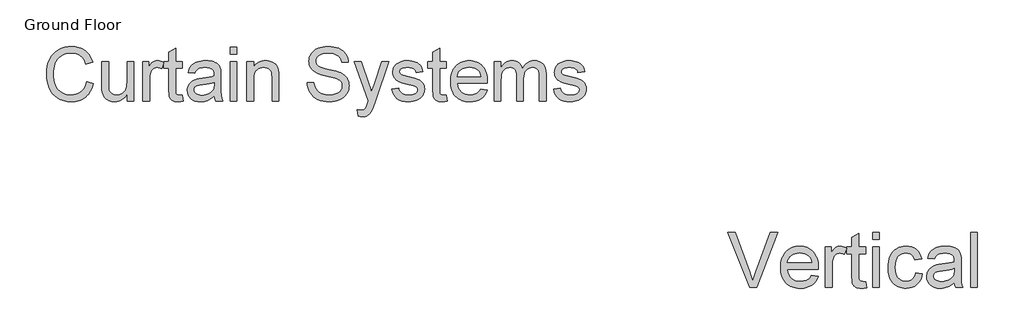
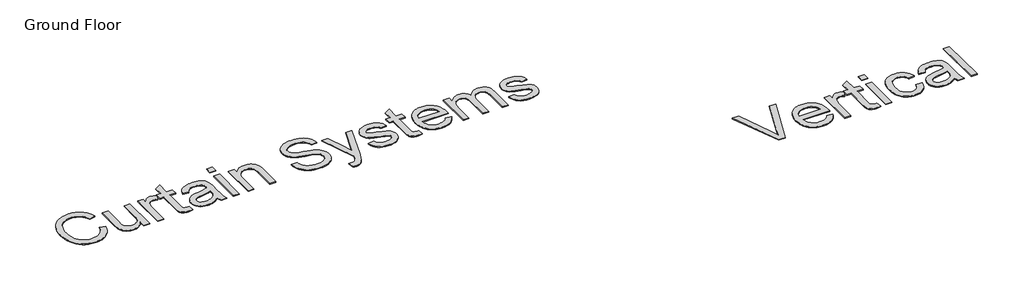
# One storey, part 2 of 6: 2 proxies.
"""IFC4 building model written with IfcOpenShell, lengths in millimetres."""

from ifc_helpers import new_model, si_unit, origin, origin_with_axes, place, context, project, spatial, polyline, outline, extrude, element, save

model = new_model("IFC4")

# Units and contexts
model_context = context("Model", 3, world=origin())
ifc_project = project(units=[si_unit("LENGTHUNIT", "METRE", prefix="MILLI")], contexts=[model_context])

# Site, building, storey
site = spatial("IfcSite", under=ifc_project)
building = spatial("IfcBuilding", under=site)
storey = spatial("IfcBuildingStorey", under=building, Name="Ground Floor", Elevation=0.0)

# Proxies
placement = place(None, origin())
element("IfcBuildingElementProxy", 1, Name="1200mm Arial", ObjectType="1200mm Arial", at=placement, inside=storey, context=model_context, shape_type="SweptSolid", body=[
    extrude(outline(polyline([(-31551.5643915, -3189.6186223), (-31404.6553006, -3227.4936223), (-31433.7250804, -3318.8545065), (-31451.8780012, -3360.2107965), (-31472.4429426, -3398.6843183), (-31495.4199046, -3434.275072), (-31520.8088872, -3466.9830577), (-31548.6098904, -3496.8082752), (-31578.8229142, -3523.7507246), (-31611.120677, -3547.6579733), (-31645.1758971, -3568.3775889), (-31680.9885747, -3585.9095713), (-31718.5587096, -3600.2539206), (-31757.886302, -3611.4106367), (-31798.9713517, -3619.3797196), (-31841.8138588, -3624.1611693), (-31886.4138233, -3625.7549859), (-31975.9993169, -3620.9309447), (-32056.8154568, -3606.4588212), (-32128.862243, -3582.3386152), (-32192.1396756, -3548.5703268), (-32247.5175165, -3505.6560868), (-32295.8655278, -3454.0980257), (-32337.1837096, -3393.8961436), (-32371.4720619, -3325.0504405), (-32398.3988197, -3250.5378339), (-32417.6322182, -3173.3352416), (-32429.1722572, -3093.4426635), (-32433.0189369, -3010.8600996), (-32428.6701265, -2922.2519675), (-32415.6236954, -2839.4900712), (-32393.8796436, -2762.5744106), (-32363.437971, -2691.5049859), (-32324.9801408, -2627.4564241), (-32279.1876159, -2571.6033524), (-32226.0603964, -2523.9457707), (-32165.5984824, -2484.4836791), (-32099.8552295, -2453.5398758), (-32030.8839937, -2431.4371592), (-31958.684775, -2418.1755293), (-31883.2575733, -2413.7549859), (-31799.2313837, -2419.4756891), (-31722.1812238, -2436.6377984), (-31686.2721551, -2449.5093805), (-31652.1070939, -2465.2413141), (-31619.6860401, -2483.8335992), (-31589.0089937, -2505.2862359), (-31560.3359868, -2529.3347089), (-31533.9270513, -2555.714503), (-31509.7821871, -2584.425618), (-31487.9013943, -2615.4680541), (-31450.9320229, -2684.5468893), (-31423.0189369, -2762.9510087), (-31569.9280278, -2797.9566905), (-31593.0619057, -2740.1847622), (-31620.8584256, -2690.8235229), (-31653.3175875, -2649.8729724), (-31690.4393915, -2617.3331109), (-31732.4390363, -2592.5404085), (-31779.531721, -2574.8313354), (-31831.7174454, -2564.2058915), (-31888.9962096, -2560.6640768), (-31954.9008616, -2564.5914561), (-32015.1744767, -2576.3735939), (-32069.8170548, -2596.0104902), (-32118.828596, -2623.502145), (-32161.5904035, -2657.6111649), (-32197.4837807, -2697.1001564), (-32226.5087274, -2741.9691194), (-32248.6652437, -2792.2180541), (-32265.0472572, -2845.5694391), (-32276.7486954, -2899.745753), (-32283.7695584, -2954.7469959), (-32286.109846, -3010.5731677), (-32283.3391606, -3080.7279973), (-32275.0271045, -3146.2919177), (-32261.1736777, -3207.2649291), (-32241.7788801, -3263.6470314), (-32216.5288801, -3314.3173971), (-32185.109846, -3358.155199), (-32147.5217778, -3395.1604369), (-32103.7646756, -3425.3331109), (-32055.963628, -3448.744954), (-32006.2437238, -3465.467699), (-31954.6049632, -3475.501346), (-31901.047346, -3478.845895), (-31837.1781166, -3474.2908524), (-31778.4198602, -3460.6257246), (-31724.7725768, -3437.8505115), (-31676.2362665, -3405.9652132), (-31633.9586564, -3365.1132956), (-31599.0874738, -3315.4382246), (-31571.6227189, -3256.9400001), (-31551.5643915, -3189.6186223)])), origin_with_axes(), (0.0, 0.0, 1.0), 20.0),
    extrude(outline(polyline([(-30670.109846, -3607.3913496), (-30670.109846, -3459.0475996), (-30695.5929781, -3498.1196432), (-30723.2639653, -3531.9820811), (-30753.1228077, -3560.6349131), (-30785.1695051, -3584.0781393), (-30819.4040577, -3602.3117597), (-30855.8264653, -3615.3357743), (-30894.4367281, -3623.150183), (-30935.234846, -3625.7549859), (-30971.6303538, -3623.9257956), (-31006.7884682, -3618.4382246), (-31040.709189, -3609.2922729), (-31073.3925165, -3596.4879405), (-31103.3948247, -3580.9218893), (-31129.2724881, -3563.4907814), (-31151.0255065, -3544.1946166), (-31168.6538801, -3523.033395), (-31183.0632373, -3499.7022516), (-31195.1592068, -3473.8963212), (-31212.4109824, -3414.8600996), (-31218.8669483, -3359.1953268), (-31221.0189369, -3278.2805541), (-31221.0189369, -2744.3004405), (-31074.109846, -2744.3004405), (-31074.109846, -3209.1299859), (-31071.8861244, -3302.095895), (-31065.2149596, -3358.908395), (-31056.4187061, -3385.3868219), (-31043.8026727, -3408.8703979), (-31027.3668595, -3429.359123), (-31007.1112665, -3446.8529973), (-30983.6456237, -3460.84989), (-30957.5796613, -3470.8476706), (-30928.9133794, -3476.8463389), (-30897.6467778, -3478.845895), (-30865.4476479, -3476.8015058), (-30834.2707125, -3470.6683382), (-30804.1159717, -3460.4463922), (-30774.9834256, -3446.1356677), (-30748.451199, -3428.3010619), (-30726.097417, -3407.5074717), (-30707.9220797, -3383.7548971), (-30693.9251869, -3357.0433382), (-30683.5059753, -3325.6691372), (-30676.0636812, -3287.9286365), (-30671.5983048, -3243.8218361), (-30670.109846, -3193.3487359), (-30670.109846, -2744.3004405), (-30523.2007551, -2744.3004405), (-30523.2007551, -3607.3913496), (-30670.109846, -3607.3913496)])), origin_with_axes(), (0.0, 0.0, 1.0), 20.0),
    extrude(outline(polyline([(-30321.2007551, -3607.3913496), (-30321.2007551, -2744.3004405), (-30192.6553006, -2744.3004405), (-30192.6553006, -2871.9850996), (-30168.4454284, -2831.1690484), (-30145.1680846, -2797.9566905), (-30122.8232693, -2772.3480257), (-30101.4109824, -2754.3430541), (-30079.962829, -2741.9153197), (-30057.5104142, -2733.0383666), (-30034.0537381, -2727.7121947), (-30009.5928006, -2725.9368041), (-29973.1524596, -2728.7702558), (-29936.4251869, -2737.2706109), (-29899.4109824, -2751.4378694), (-29862.109846, -2771.2720314), (-29911.1751869, -2902.9737359), (-29936.9990506, -2889.7928055), (-29962.8229142, -2880.3778552), (-29988.6467778, -2874.7288851), (-30014.4706415, -2872.845895), (-30036.9858226, -2874.6571521), (-30058.3353432, -2880.0909234), (-30078.5192033, -2889.1472089), (-30097.5374028, -2901.8260087), (-30114.6726123, -2917.7148581), (-30129.2075023, -2936.4012927), (-30141.1420726, -2957.8853126), (-30150.4763233, -2982.1669177), (-30160.8955349, -3022.2656393), (-30168.337829, -3064.2294177), (-30174.2916642, -3153.752145), (-30174.2916642, -3607.3913496), (-30321.2007551, -3607.3913496)])), origin_with_axes(), (0.0, 0.0, 1.0), 20.0),
    extrude(outline(polyline([(-29458.109846, -3484.8714632), (-29439.7462096, -3611.6953268), (-29497.9216358, -3622.2400712), (-29549.641096, -3625.7549859), (-29587.139498, -3624.2306606), (-29620.1545903, -3619.6576848), (-29648.686373, -3612.0360584), (-29672.734846, -3601.3657814), (-29692.9276727, -3588.2207175), (-29709.8925165, -3573.1747302), (-29723.6293773, -3556.2278197), (-29734.1382551, -3537.3799859), (-29741.9212807, -3512.1120527), (-29747.4805846, -3475.9048439), (-29751.9280278, -3370.6725996), (-29751.9280278, -2891.2095314), (-29862.109846, -2891.2095314), (-29862.109846, -2744.3004405), (-29751.9280278, -2744.3004405), (-29751.9280278, -2534.5532814), (-29605.0189369, -2448.1868041), (-29605.0189369, -2744.3004405), (-29458.109846, -2744.3004405), (-29458.109846, -2891.2095314), (-29605.0189369, -2891.2095314), (-29605.0189369, -3366.3686223), (-29603.0821471, -3414.7166337), (-29597.2717778, -3442.1186223), (-29587.1215648, -3457.2901422), (-29572.1652437, -3468.9467473), (-29550.9681557, -3476.3711081), (-29522.0956415, -3478.845895), (-29458.109846, -3484.8714632)])), origin_with_axes(), (0.0, 0.0, 1.0), 20.0),
    extrude(outline(polyline([(-28760.2916642, -3497.2095314), (-28795.1269802, -3529.9018254), (-28830.4823602, -3557.3934802), (-28866.3578041, -3579.6844959), (-28902.7533119, -3596.7748723), (-28940.0813481, -3609.453672), (-28978.7543773, -3618.5099575), (-29018.7723993, -3623.9437288), (-29060.1354142, -3625.7549859), (-29125.5469021, -3621.3972089), (-29182.9063659, -3608.323878), (-29232.2138055, -3586.534993), (-29273.469221, -3556.0305541), (-29306.044949, -3518.747351), (-29329.3133261, -3476.6221734), (-29343.2743524, -3429.6550214), (-29347.9280278, -3377.845895), (-29346.1705704, -3346.6958595), (-29340.8981983, -3316.9446166), (-29332.1109113, -3288.5921663), (-29319.8087096, -3261.6385087), (-29304.6461564, -3236.6754405), (-29287.2778148, -3214.2947587), (-29267.7036848, -3194.4964632), (-29245.9237665, -3177.2805541), (-29197.3246898, -3149.3047018), (-29143.0587096, -3129.0760087), (-29090.1915221, -3117.8139348), (-29015.9479142, -3106.9822587), (-28865.7391074, -3083.7407814), (-28807.7430136, -3070.6136507), (-28761.1524596, -3056.4822587), (-28760.2916642, -3023.7720314), (-28762.8202508, -2988.1566194), (-28770.4060108, -2958.2081109), (-28783.048944, -2933.9265058), (-28800.7490506, -2915.3118041), (-28831.3431557, -2896.7329689), (-28868.6084256, -2883.4623723), (-28912.5448602, -2875.5000143), (-28963.1524596, -2872.845895), (-29010.2092778, -2874.612319), (-29050.6666642, -2879.911591), (-29084.5246187, -2888.7437111), (-29111.7831415, -2901.1086791), (-29134.1817565, -2917.97489), (-29153.4599881, -2940.3107388), (-29169.6178361, -2968.1162253), (-29182.6553006, -3001.3913496), (-29329.5643915, -2983.0277132), (-29318.3830172, -2940.70527), (-29304.0633261, -2902.6868041), (-29286.6053183, -2868.9723155), (-29266.0089937, -2839.5618041), (-29241.3866571, -2813.8634731), (-29211.8506131, -2791.2855257), (-29177.4008616, -2771.8279618), (-29138.0374028, -2755.4907814), (-29094.5582658, -2742.5609163), (-29047.7614795, -2733.3252984), (-28997.6470442, -2727.7839277), (-28944.2149596, -2725.9368041), (-28891.9844021, -2727.5687288), (-28844.9006841, -2732.464503), (-28802.9638055, -2740.6241266), (-28766.1737665, -2752.0475996), (-28734.2257018, -2765.9368929), (-28706.8147466, -2781.4939774), (-28683.9409007, -2798.7188531), (-28665.6041642, -2817.61152), (-28650.7375094, -2838.6382423), (-28638.2739085, -2862.2652842), (-28620.5558687, -2917.3203268), (-28615.1758971, -2968.1072587), (-28613.3825733, -3045.8657814), (-28613.3825733, -3228.6413496), (-28611.5175165, -3387.8526422), (-28605.922346, -3483.8672018), (-28594.875471, -3546.9563354), (-28576.6553006, -3607.3913496), (-28723.5643915, -3607.3913496), (-28736.6197892, -3582.8586791), (-28747.0928006, -3556.3174859), (-28760.2916642, -3497.2095314)]), holes=[polyline([(-28760.2916642, -3203.3913496), (-28804.6943631, -3216.1060158), (-28858.9962096, -3227.8522871), (-28997.297346, -3248.439645), (-29073.5136102, -3259.7017189), (-29123.6908119, -3272.2549859), (-29156.5803716, -3288.5383666), (-29180.9337096, -3310.9907814), (-29195.9976301, -3337.8906393), (-29201.0189369, -3367.5163496), (-29198.284118, -3390.3453623), (-29190.0796613, -3411.2017189), (-29176.4055669, -3430.0854192), (-29157.2618346, -3446.9964632), (-29132.827797, -3460.9305896), (-29103.2827863, -3470.8835371), (-29068.6268027, -3476.8553055), (-29028.859846, -3478.845895), (-28988.2589937, -3476.6490733), (-28949.953596, -3470.0586081), (-28913.9436528, -3459.0744994), (-28880.2291642, -3443.6967473), (-28849.8143915, -3425.1986116), (-28823.703596, -3404.8533524), (-28801.8967778, -3382.6609696), (-28784.3939369, -3358.6214632), (-28774.2257906, -3337.1015768), (-28766.962829, -3310.9907814), (-28762.605052, -3280.2890768), (-28761.1524596, -3244.9964632), (-28760.2916642, -3203.3913496)])]), origin_with_axes(), (0.0, 0.0, 1.0), 20.0),
    extrude(outline(polyline([(-28411.3825733, -2579.0277132), (-28411.3825733, -2432.1186223), (-28264.4734824, -2432.1186223), (-28264.4734824, -2579.0277132), (-28411.3825733, -2579.0277132)])), origin_with_axes(), (0.0, 0.0, 1.0), 20.0),
    extrude(outline(polyline([(-28411.3825733, -3607.3913496), (-28411.3825733, -2744.3004405), (-28264.4734824, -2744.3004405), (-28264.4734824, -3607.3913496), (-28411.3825733, -3607.3913496)])), origin_with_axes(), (0.0, 0.0, 1.0), 20.0),
    extrude(outline(polyline([(-28044.109846, -3607.3913496), (-28044.109846, -2744.3004405), (-27897.2007551, -2744.3004405), (-27897.2007551, -2864.8118041), (-27872.9639831, -2832.262976), (-27846.1627579, -2804.0539916), (-27816.7970797, -2780.184851), (-27784.8669483, -2760.6555541), (-27750.3723638, -2745.466101), (-27713.3133261, -2734.6164916), (-27673.6898354, -2728.106726), (-27631.5018915, -2725.9368041), (-27594.53252, -2727.6852949), (-27559.0874738, -2732.9307672), (-27525.166753, -2741.673221), (-27492.7703574, -2753.9126564), (-27463.1267139, -2768.9945101), (-27437.4642494, -2786.2642189), (-27415.7829639, -2805.7217828), (-27398.0828574, -2827.3672018), (-27371.3623318, -2877.1140058), (-27354.0388233, -2935.3970314), (-27348.228454, -2991.1335371), (-27346.2916642, -3077.4282814), (-27346.2916642, -3607.3913496), (-27493.2007551, -3607.3913496), (-27493.2007551, -3097.2265768), (-27497.4329994, -3021.261378), (-27502.7233048, -2991.5101351), (-27510.1297324, -2967.2464632), (-27520.2171791, -2946.8115378), (-27533.550542, -2928.5465342), (-27550.1298212, -2912.4514525), (-27569.9550165, -2898.5262927), (-27592.3446649, -2887.2911187), (-27616.6173034, -2879.2659944), (-27642.7729319, -2874.4509199), (-27670.8115506, -2872.845895), (-27715.4204817, -2876.450476), (-27756.8552295, -2887.2642189), (-27795.1157942, -2905.2871237), (-27830.2021756, -2930.5191905), (-27845.9049676, -2946.5559891), (-27859.5140541, -2965.8297373), (-27871.029435, -2988.3404351), (-27880.4511102, -3014.0880825), (-27893.0133439, -3075.294226), (-27897.2007551, -3149.4481677), (-27897.2007551, -3607.3913496), (-28044.109846, -3607.3913496)])), origin_with_axes(), (0.0, 0.0, 1.0), 20.0),
    extrude(outline(polyline([(-26721.9280278, -3203.3913496), (-26575.0189369, -3203.3913496), (-26568.2939724, -3246.1531571), (-26558.1616926, -3284.9158524), (-26544.6220974, -3319.6794355), (-26527.6751869, -3350.4439064), (-26506.4601656, -3377.8279618), (-26480.1162381, -3402.4502984), (-26448.6434042, -3424.3109163), (-26412.0416642, -3443.4098155), (-26371.6560108, -3458.9131003), (-26328.8314369, -3469.9868751), (-26283.5679426, -3476.63114), (-26235.8655278, -3478.845895), (-26193.6686173, -3477.1691372), (-26154.0182267, -3472.1388638), (-26116.914356, -3463.7550747), (-26082.3570051, -3452.01777), (-26051.198003, -3437.3483808), (-26024.2891784, -3420.1683382), (-26001.6305314, -3400.4776422), (-25983.2220619, -3378.2762927), (-25968.9741038, -3354.5237182), (-25958.7969909, -3330.1793467), (-25952.6907231, -3305.2431784), (-25950.6553006, -3279.7152132), (-25952.1796258, -3254.2948474), (-25956.7526017, -3230.5422729), (-25964.3742281, -3208.4574895), (-25975.0445051, -3188.0404973), (-25990.4312238, -3169.1836969), (-26012.2021756, -3151.7794888), (-26040.3573602, -3135.827873), (-26074.8967778, -3121.3288496), (-26152.4759682, -3098.2667047), (-26288.8044483, -3065.2336791), (-26429.2217068, -3028.1118751), (-26480.4659362, -3010.2234696), (-26519.0672324, -2992.783395), (-26558.2961919, -2969.3805186), (-26592.1989795, -2943.3593893), (-26620.7755953, -2914.7200072), (-26644.0260392, -2883.4623723), (-26662.0399774, -2849.9092828), (-26674.9070761, -2814.3835371), (-26682.6273354, -2776.8851351), (-26685.2007551, -2737.4140768), (-26682.0176052, -2693.6659412), (-26672.4681557, -2651.3703979), (-26656.5524064, -2610.5274469), (-26634.2703574, -2571.1370882), (-26605.873074, -2534.8043467), (-26571.6116216, -2503.1342473), (-26531.4860001, -2476.1267899), (-26485.4962096, -2453.7819746), (-26435.1934753, -2436.270167), (-26382.1290221, -2423.7617331), (-26326.3028503, -2416.2566727), (-26267.7149596, -2413.7549859), (-26203.8008971, -2416.3732388), (-26143.7604142, -2424.2279973), (-26087.5935108, -2437.3192615), (-26035.3001869, -2455.6470314), (-25987.8488375, -2479.0499078), (-25946.2078574, -2507.3664916), (-25910.3772466, -2540.5967828), (-25880.3570051, -2578.7407814), (-25856.380265, -2620.6866266), (-25838.6801585, -2665.3224575), (-25827.2566855, -2712.6482743), (-25822.109846, -2762.6640768), (-25969.0189369, -2762.6640768), (-25978.8463517, -2715.786591), (-25995.9905278, -2675.0064064), (-26020.4514653, -2640.3235229), (-26052.2291642, -2611.7379405), (-26091.9154213, -2589.3931251), (-26140.1020335, -2573.4325427), (-26196.7890008, -2563.8561933), (-26261.9763233, -2560.6640768), (-26329.2439014, -2563.8203268), (-26386.7199312, -2573.2890768), (-26434.4044128, -2589.0703268), (-26472.297346, -2611.1640768), (-26501.1698602, -2637.7232033), (-26521.7930846, -2666.9005825), (-26534.1670193, -2698.6962146), (-26538.2916642, -2733.1100996), (-26535.3685463, -2762.7178766), (-26526.5991926, -2789.5639348), (-26511.9836031, -2813.6482743), (-26491.5217778, -2834.970895), (-26459.3136812, -2855.1637217), (-26408.5984824, -2875.5717473), (-26339.3761812, -2896.1949717), (-26251.6467778, -2917.033395), (-26089.6737665, -2956.4147871), (-26032.6819341, -2974.222493), (-25991.6865506, -2990.7748723), (-25946.6472217, -3015.8634731), (-25907.9383261, -3044.0724575), (-25875.5598638, -3075.4018254), (-25849.5118346, -3109.8515768), (-25829.4893737, -3147.2423794), (-25815.1876159, -3187.3949007), (-25806.6065612, -3230.3091408), (-25803.7462096, -3275.9850996), (-25807.0369589, -3321.9390236), (-25816.9092068, -3366.5479547), (-25833.3629533, -3409.8118929), (-25856.3981983, -3451.7308382), (-25885.611444, -3490.6818325), (-25920.5991926, -3525.0419177), (-25961.361444, -3554.8110939), (-26007.8981983, -3579.9893609), (-26058.8554959, -3600.0118219), (-26112.8793773, -3614.3135797), (-26169.9698425, -3622.8946344), (-26230.1268915, -3625.7549859), (-26305.276128, -3622.6704689), (-26374.0590648, -3613.4169177), (-26436.4757018, -3597.9943325), (-26492.5260392, -3576.4027132), (-26542.5508084, -3548.6061933), (-26586.8907409, -3514.5689064), (-26625.5458368, -3474.2908524), (-26658.516096, -3427.7720314), (-26685.0752224, -3376.5188354), (-26704.4969199, -3322.0376564), (-26716.7811883, -3264.3284944), (-26721.9280278, -3203.3913496)])), origin_with_axes(), (0.0, 0.0, 1.0), 20.0),
    extrude(outline(polyline([(-25601.7462096, -3937.9368041), (-25620.109846, -3796.4794177), (-25580.0828574, -3806.1633666), (-25545.5075733, -3809.3913496), (-25506.2696471, -3805.3384376), (-25475.7831415, -3793.1797018), (-25452.0395335, -3773.7759376), (-25433.0303006, -3747.9879405), (-25416.8186528, -3710.0412075), (-25392.859846, -3639.814645), (-25381.3825733, -3604.2350996), (-25693.5643915, -2744.3004405), (-25538.6212096, -2744.3004405), (-25373.0615506, -3223.4765768), (-25342.5750449, -3317.0163496), (-25315.3882551, -3415.1470314), (-25257.7149596, -3245.8572587), (-25087.5643915, -2744.3004405), (-24933.7689369, -2744.3004405), (-25234.1865506, -3628.0504405), (-25278.8044483, -3745.54902), (-25312.2320051, -3819.720895), (-25331.5461031, -3852.6642544), (-25352.1872608, -3880.9091052), (-25374.1554781, -3904.4554476), (-25397.4507551, -3923.3032814), (-25422.5752224, -3937.7395385), (-25450.0310108, -3948.0511507), (-25479.8181202, -3954.238118), (-25511.9365506, -3956.3004405), (-25554.4741926, -3951.7095314), (-25601.7462096, -3937.9368041)])), origin_with_axes(), (0.0, 0.0, 1.0), 20.0),
    extrude(outline(polyline([(-24867.2007551, -3350.3004405), (-24720.2916642, -3331.9368041), (-24711.4147111, -3365.4360939), (-24697.1219199, -3394.7748723), (-24677.4132906, -3419.9531393), (-24652.2888233, -3440.970895), (-24621.6767849, -3457.5412075), (-24585.5054426, -3469.377145), (-24543.7747963, -3476.4787075), (-24496.484846, -3478.845895), (-24449.2486954, -3476.6759731), (-24408.5402437, -3470.1662075), (-24374.3594909, -3459.3165981), (-24346.7064369, -3444.127145), (-24325.3658829, -3426.014574), (-24310.1226301, -3406.3956109), (-24300.9766784, -3385.2702558), (-24297.9280278, -3362.6385087), (-24300.9946116, -3342.8043467), (-24310.1943631, -3325.1939064), (-24325.5272821, -3309.8071876), (-24346.9933687, -3296.6441905), (-24402.0125449, -3277.9936223), (-24498.2064369, -3254.752145), (-24632.275329, -3215.9804831), (-24719.4308687, -3182.8757246), (-24749.3524774, -3166.2785122), (-24775.4184398, -3146.7581819), (-24797.6287558, -3124.3147338), (-24815.9834256, -3098.9481677), (-24830.3569163, -3071.4206464), (-24840.6236954, -3042.4943325), (-24846.7837629, -3012.169226), (-24848.8371187, -2980.4453268), (-24847.1872608, -2951.4383133), (-24842.2376869, -2923.5252274), (-24833.9883971, -2896.706069), (-24822.4393915, -2870.9808382), (-24808.0390008, -2846.8695989), (-24791.2355562, -2824.8924149), (-24772.0290577, -2805.0492864), (-24750.4195051, -2787.3402132), (-24709.8545193, -2763.7042047), (-24657.0231983, -2743.8700427), (-24595.9425875, -2730.4201138), (-24530.6297324, -2725.9368041), (-24481.2595264, -2727.7390946), (-24435.009704, -2733.145966), (-24391.880265, -2742.1574185), (-24351.8712096, -2754.7734518), (-24315.9329994, -2770.4650356), (-24285.016096, -2788.7031393), (-24259.1204994, -2809.4877629), (-24238.2462096, -2832.8189064), (-24221.3172324, -2859.5125321), (-24207.2575733, -2890.3846024), (-24196.0672324, -2925.4351173), (-24187.7462096, -2964.6640768), (-24334.6553006, -2983.0277132), (-24341.6582302, -2958.4860761), (-24353.1982693, -2936.795824), (-24369.2754177, -2917.9569568), (-24389.8896756, -2901.9694746), (-24415.1307089, -2889.2279085), (-24445.0881841, -2880.1267899), (-24479.762101, -2874.6661187), (-24519.1524596, -2872.845895), (-24564.8463517, -2874.5854192), (-24603.5104142, -2879.8039916), (-24635.1446471, -2888.5016123), (-24659.7490506, -2900.6782814), (-24678.2023531, -2915.1683382), (-24691.3832835, -2930.8061223), (-24699.2918417, -2947.5916337), (-24701.9280278, -2965.5248723), (-24697.5523176, -2988.120753), (-24684.4251869, -3008.2777132), (-24661.9727721, -3026.2826848), (-24629.6212096, -3040.7010087), (-24503.0842778, -3071.9765768), (-24373.2834966, -3110.3537075), (-24287.4550165, -3141.127145), (-24257.2554426, -3156.1372658), (-24230.4990506, -3174.1960371), (-24207.1858403, -3195.3034589), (-24187.3158119, -3219.4595314), (-24171.4359291, -3246.7001209), (-24160.0931557, -3277.0610939), (-24153.2874916, -3310.5424504), (-24151.0189369, -3347.1441905), (-24153.6820229, -3383.9073297), (-24161.6712807, -3419.5944746), (-24174.9867104, -3454.2056251), (-24193.6283119, -3487.7407814), (-24217.2912203, -3518.863917), (-24245.6705704, -3546.2390058), (-24278.7663623, -3569.8660477), (-24316.578596, -3589.7450427), (-24358.0761102, -3605.4993929), (-24402.2277437, -3616.7525001), (-24449.0334966, -3623.5043645), (-24498.4933687, -3625.7549859), (-24577.5610179, -3621.4151422), (-24646.6219199, -3608.3956109), (-24705.6760747, -3586.6963922), (-24754.7234824, -3556.3174859), (-24794.7863375, -3517.4023581), (-24826.8868346, -3470.0944746), (-24851.0249738, -3414.3938354), (-24867.2007551, -3350.3004405)])), origin_with_axes(), (0.0, 0.0, 1.0), 20.0),
    extrude(outline(polyline([(-23673.5643915, -3484.8714632), (-23655.2007551, -3611.6953268), (-23713.3761812, -3622.2400712), (-23765.0956415, -3625.7549859), (-23802.5940435, -3624.2306606), (-23835.6091358, -3619.6576848), (-23864.1409185, -3612.0360584), (-23888.1893915, -3601.3657814), (-23908.3822182, -3588.2207175), (-23925.3470619, -3573.1747302), (-23939.0839227, -3556.2278197), (-23949.5928006, -3537.3799859), (-23957.3758261, -3512.1120527), (-23962.9351301, -3475.9048439), (-23967.3825733, -3370.6725996), (-23967.3825733, -2891.2095314), (-24077.5643915, -2891.2095314), (-24077.5643915, -2744.3004405), (-23967.3825733, -2744.3004405), (-23967.3825733, -2534.5532814), (-23820.4734824, -2448.1868041), (-23820.4734824, -2744.3004405), (-23673.5643915, -2744.3004405), (-23673.5643915, -2891.2095314), (-23820.4734824, -2891.2095314), (-23820.4734824, -3366.3686223), (-23818.5366926, -3414.7166337), (-23812.7263233, -3442.1186223), (-23802.5761102, -3457.2901422), (-23787.6197892, -3468.9467473), (-23766.4227011, -3476.3711081), (-23737.5501869, -3478.845895), (-23673.5643915, -3484.8714632)])), origin_with_axes(), (0.0, 0.0, 1.0), 20.0),
    extrude(outline(polyline([(-22922.3768915, -3350.3004405), (-22778.3371187, -3368.6640768), (-22800.4219021, -3426.3553055), (-22830.2359113, -3477.1960371), (-22867.7791464, -3521.1862714), (-22913.0516074, -3558.3260087), (-22965.58703, -3587.8261862), (-23024.91915, -3608.8977416), (-23091.0479675, -3621.5406748), (-23163.9734824, -3625.7549859), (-23210.7926851, -3623.9370039), (-23255.1281344, -3618.4830577), (-23296.97983, -3609.3931473), (-23336.3477721, -3596.6672729), (-23373.2319607, -3580.3054343), (-23407.6323957, -3560.3076315), (-23439.5490772, -3536.6738647), (-23468.9820051, -3509.4041337), (-23495.4111155, -3478.85262), (-23518.3163446, -3445.3735051), (-23537.6976922, -3408.966789), (-23553.5551585, -3369.6324717), (-23565.8887434, -3327.3705532), (-23574.6984469, -3282.1810335), (-23579.9842689, -3234.0639126), (-23581.7462096, -3183.0191905), (-23579.9663357, -3130.2371859), (-23574.6267139, -3080.4948652), (-23565.7273442, -3033.7922285), (-23553.2682267, -2990.1292757), (-23537.2493613, -2949.5060069), (-23517.670748, -2911.922422), (-23494.5323868, -2877.3785211), (-23467.8342778, -2845.8743041), (-23438.2982338, -2817.7639525), (-23406.6460676, -2793.4016479), (-23372.8777792, -2772.78739), (-23336.9933687, -2755.9211791), (-23298.9928361, -2742.803015), (-23258.8761812, -2733.4328979), (-23216.6434042, -2727.8108275), (-23172.2945051, -2725.9368041), (-23129.3959566, -2727.8063442), (-23088.5014476, -2733.4149646), (-23049.6109779, -2742.7626653), (-23012.7245477, -2755.8494462), (-22977.8421569, -2772.6753073), (-22944.9638055, -2793.2402487), (-22914.0894936, -2817.5442704), (-22885.219221, -2845.5873723), (-22859.092734, -2877.0198563), (-22836.4497785, -2911.4920243), (-22817.2903547, -2949.0038762), (-22801.6144625, -2989.5554121), (-22789.4221019, -3033.1466319), (-22780.7132729, -3079.7775356), (-22775.4879754, -3129.4481234), (-22773.7462096, -3182.158395), (-22774.6070051, -3221.7549859), (-23434.8371187, -3221.7549859), (-23426.327797, -3280.378743), (-23409.4077863, -3331.7216052), (-23384.0770868, -3375.7835726), (-23350.3356983, -3412.564645), (-23310.0486777, -3441.5626919), (-23265.0810818, -3462.2755825), (-23215.4329106, -3474.7033169), (-23161.1041642, -3478.845895), (-23120.4674454, -3476.9270385), (-23082.9152437, -3471.1704689), (-23048.4475591, -3461.5761862), (-23017.0643915, -3448.1441905), (-22988.7657409, -3430.5158169), (-22963.5516074, -3408.3324007), (-22941.4219909, -3381.5939419), (-22922.3768915, -3350.3004405)]), holes=[polyline([(-23434.8371187, -3074.845895), (-22920.6553006, -3074.845895), (-22928.205194, -3033.2766479), (-22940.525329, -2997.2308382), (-22957.6157054, -2966.708466), (-22979.4763233, -2941.7095314), (-23019.5391784, -2911.5816905), (-23065.125471, -2890.0618041), (-23116.2352011, -2877.1498723), (-23172.8683687, -2872.845895), (-23224.5250626, -2876.2801102), (-23271.8957125, -2886.5827558), (-23314.9803183, -2903.7538318), (-23353.7788801, -2927.7933382), (-23386.3366748, -2957.5894142), (-23410.6989795, -2992.030199), (-23426.8657942, -3031.1156926), (-23434.8371187, -3074.845895)])]), origin_with_axes(), (0.0, 0.0, 1.0), 20.0),
    extrude(outline(polyline([(-22626.8371187, -3607.3913496), (-22626.8371187, -2744.3004405), (-22479.9280278, -2744.3004405), (-22479.9280278, -2886.3316905), (-22459.4124028, -2851.9447054), (-22435.7405278, -2821.0905683), (-22408.9124028, -2793.7692793), (-22378.9280278, -2769.9808382), (-22346.2716003, -2750.7115733), (-22311.4273176, -2736.9478126), (-22274.3951798, -2728.6895562), (-22235.1751869, -2725.9368041), (-22192.2968133, -2728.743356), (-22153.4713517, -2737.1630115), (-22118.698802, -2751.1957707), (-22087.9791642, -2770.8416337), (-22061.4021045, -2795.5446699), (-22039.0572892, -2824.748949), (-22020.9447182, -2858.454471), (-22007.0643915, -2896.6612359), (-21981.2315612, -2856.6476972), (-21953.5157409, -2821.969297), (-21923.9169305, -2792.6260353), (-21892.4351301, -2768.6179121), (-21859.0703396, -2749.9449273), (-21823.8225591, -2736.6070811), (-21786.6917885, -2728.6043734), (-21747.6780278, -2725.9368041), (-21688.8659717, -2730.3752807), (-21637.2451443, -2743.6907104), (-21592.8155456, -2765.8830932), (-21555.5771756, -2796.9524291), (-21526.1397643, -2837.2573829), (-21505.113042, -2887.1566194), (-21492.4970087, -2946.6501386), (-21488.2916642, -3015.7379405), (-21488.2916642, -3607.3913496), (-21635.2007551, -3607.3913496), (-21635.2007551, -3078.8629405), (-21638.6080704, -3005.5877274), (-21648.8300165, -2956.1995882), (-21657.0255065, -2938.3829156), (-21667.9827153, -2922.3775001), (-21681.7016429, -2908.1833418), (-21698.1822892, -2895.8004405), (-21716.8238908, -2885.7578268), (-21737.0256841, -2878.5845314), (-21782.109846, -2872.845895), (-21823.7418595, -2876.5222089), (-21861.6975591, -2887.5511507), (-21895.9769447, -2905.9327203), (-21926.5800165, -2931.6669177), (-21951.7493169, -2965.5069391), (-21969.7273886, -3008.2059802), (-21980.5142317, -3059.7640413), (-21984.109846, -3120.1811223), (-21984.109846, -3607.3913496), (-22131.0189369, -3607.3913496), (-22131.0189369, -3062.5078268), (-22133.1440257, -3017.9975285), (-22139.519292, -2979.4410655), (-22150.1447359, -2946.8384376), (-22165.0203574, -2920.189645), (-22184.7379533, -2899.4767544), (-22209.8893204, -2884.6818325), (-22240.4744589, -2875.8048794), (-22276.4933687, -2872.845895), (-22305.3479497, -2874.8185513), (-22333.0906699, -2880.73652), (-22359.7215292, -2890.5998013), (-22385.2405278, -2904.408395), (-22408.4820051, -2922.0188354), (-22428.2803006, -2943.2876564), (-22444.6354142, -2968.2148581), (-22457.547346, -2996.8004405), (-22467.3388943, -3030.5687288), (-22474.3328574, -3071.0440484), (-22479.9280278, -3172.1157814), (-22479.9280278, -3607.3913496), (-22626.8371187, -3607.3913496)])), origin_with_axes(), (0.0, 0.0, 1.0), 20.0),
    extrude(outline(polyline([(-21323.0189369, -3350.3004405), (-21176.109846, -3331.9368041), (-21167.2328929, -3365.4360939), (-21152.9401017, -3394.7748723), (-21133.2314724, -3419.9531393), (-21108.1070051, -3440.970895), (-21077.4949667, -3457.5412075), (-21041.3236244, -3469.377145), (-20999.5929781, -3476.4787075), (-20952.3030278, -3478.845895), (-20905.0668773, -3476.6759731), (-20864.3584256, -3470.1662075), (-20830.1776727, -3459.3165981), (-20802.5246187, -3444.127145), (-20781.1840648, -3426.014574), (-20765.9408119, -3406.3956109), (-20756.7948602, -3385.2702558), (-20753.7462096, -3362.6385087), (-20756.8127935, -3342.8043467), (-20766.0125449, -3325.1939064), (-20781.3454639, -3309.8071876), (-20802.8115506, -3296.6441905), (-20857.8307267, -3277.9936223), (-20954.0246187, -3254.752145), (-21088.0935108, -3215.9804831), (-21175.2490506, -3182.8757246), (-21205.1706592, -3166.2785122), (-21231.2366216, -3146.7581819), (-21253.4469376, -3124.3147338), (-21271.8016074, -3098.9481677), (-21286.1750981, -3071.4206464), (-21296.4418773, -3042.4943325), (-21302.6019447, -3012.169226), (-21304.6553006, -2980.4453268), (-21303.0054426, -2951.4383133), (-21298.0558687, -2923.5252274), (-21289.806579, -2896.706069), (-21278.2575733, -2870.9808382), (-21263.8571827, -2846.8695989), (-21247.0537381, -2824.8924149), (-21227.8472395, -2805.0492864), (-21206.2376869, -2787.3402132), (-21165.6727011, -2763.7042047), (-21112.8413801, -2743.8700427), (-21051.7607693, -2730.4201138), (-20986.4479142, -2725.9368041), (-20937.0777082, -2727.7390946), (-20890.8278858, -2733.145966), (-20847.6984469, -2742.1574185), (-20807.6893915, -2754.7734518), (-20771.7511812, -2770.4650356), (-20740.8342778, -2788.7031393), (-20714.9386812, -2809.4877629), (-20694.0643915, -2832.8189064), (-20677.1354142, -2859.5125321), (-20663.0757551, -2890.3846024), (-20651.8854142, -2925.4351173), (-20643.5643915, -2964.6640768), (-20790.4734824, -2983.0277132), (-20797.4764121, -2958.4860761), (-20809.0164511, -2936.795824), (-20825.0935996, -2917.9569568), (-20845.7078574, -2901.9694746), (-20870.9488908, -2889.2279085), (-20900.9063659, -2880.1267899), (-20935.5802828, -2874.6661187), (-20974.9706415, -2872.845895), (-21020.6645335, -2874.5854192), (-21059.328596, -2879.8039916), (-21090.962829, -2888.5016123), (-21115.5672324, -2900.6782814), (-21134.0205349, -2915.1683382), (-21147.2014653, -2930.8061223), (-21155.1100236, -2947.5916337), (-21157.7462096, -2965.5248723), (-21153.3704994, -2988.120753), (-21140.2433687, -3008.2777132), (-21117.790954, -3026.2826848), (-21085.4393915, -3040.7010087), (-20958.9024596, -3071.9765768), (-20829.1016784, -3110.3537075), (-20743.2731983, -3141.127145), (-20713.0736244, -3156.1372658), (-20686.3172324, -3174.1960371), (-20663.0040221, -3195.3034589), (-20643.1339937, -3219.4595314), (-20627.2541109, -3246.7001209), (-20615.9113375, -3277.0610939), (-20609.1056734, -3310.5424504), (-20606.8371187, -3347.1441905), (-20609.5002047, -3383.9073297), (-20617.4894625, -3419.5944746), (-20630.8048922, -3454.2056251), (-20649.4464937, -3487.7407814), (-20673.1094021, -3518.863917), (-20701.4887523, -3546.2390058), (-20734.5845442, -3569.8660477), (-20772.3967778, -3589.7450427), (-20813.894292, -3605.4993929), (-20858.0459256, -3616.7525001), (-20904.8516784, -3623.5043645), (-20954.3115506, -3625.7549859), (-21033.3791997, -3621.4151422), (-21102.4401017, -3608.3956109), (-21161.4942565, -3586.6963922), (-21210.5416642, -3556.3174859), (-21250.6045193, -3517.4023581), (-21282.7050165, -3470.0944746), (-21306.8431557, -3414.3938354), (-21323.0189369, -3350.3004405)])), origin_with_axes(), (0.0, 0.0, 1.0), 20.0),
])
element("IfcBuildingElementProxy", 2, Name="1200mm Arial", ObjectType="1200mm Arial", at=placement, inside=storey, context=model_context, shape_type="SweptSolid", body=[
    extrude(outline(polyline([(-17030.2482205, -7700.5952157), (-17509.9663422, -6495.1194939), (-17348.6868755, -6495.1194939), (-17027.5994701, -7363.6153081), (-16991.9149166, -7464.7828568), (-16962.5579334, -7559.3285295), (-16932.6859154, -7461.3983424), (-16898.3993134, -7363.6153081), (-16576.4289912, -6495.1194939), (-16415.1495246, -6495.1194939), (-16874.5605601, -7700.5952157), (-17030.2482205, -7700.5952157)])), origin_with_axes(), (0.0, 0.0, 1.0), 20.0),
    extrude(outline(polyline([(-15674.0880335, -7436.8974015), (-15526.3466242, -7455.7329597), (-15548.9989581, -7514.9067786), (-15579.5791489, -7567.0540514), (-15618.0871968, -7612.1747781), (-15664.5231016, -7650.2689587), (-15718.4086168, -7680.5272528), (-15779.2654959, -7702.1403201), (-15847.0937387, -7715.1081604), (-15921.8933454, -7719.4307738), (-15969.9157414, -7717.566072), (-16015.3905545, -7711.9719664), (-16058.3177848, -7702.6484571), (-16098.6974323, -7689.595544), (-16136.529497, -7672.8132273), (-16171.8139788, -7652.3015068), (-16204.5508779, -7628.0603825), (-16234.7401941, -7600.0898546), (-16261.8484986, -7568.7532064), (-16285.3423626, -7534.4137214), (-16305.2217859, -7497.0713996), (-16321.4867686, -7456.7262411), (-16334.1373107, -7413.3782457), (-16343.1734122, -7367.0274136), (-16348.5950731, -7317.6737447), (-16350.4022934, -7265.317239), (-16348.576679, -7211.1788049), (-16343.0998358, -7160.1581707), (-16333.9717638, -7112.2553364), (-16321.192463, -7067.470302), (-16304.7619334, -7025.8030675), (-16284.680175, -6987.2536329), (-16260.9471877, -6951.8219983), (-16233.5629717, -6919.5081635), (-16203.2678894, -6890.6754122), (-16170.8023034, -6865.6870276), (-16136.1662135, -6844.54301), (-16099.3596199, -6827.2433591), (-16060.3825225, -6813.7880752), (-16019.2349213, -6804.177158), (-15975.9168164, -6798.4106078), (-15930.4282077, -6796.4884243), (-15886.4272218, -6798.4060092), (-15844.4817766, -6804.1587639), (-15804.591872, -6813.7466884), (-15766.7575081, -6827.1697827), (-15730.9786848, -6844.4280468), (-15697.2554021, -6865.5214807), (-15665.5876601, -6890.4500844), (-15635.9754588, -6919.2138579), (-15609.1775547, -6951.4541163), (-15585.9527045, -6986.8121745), (-15566.3009081, -7025.2880327), (-15550.2221657, -7066.8816908), (-15537.7164771, -7111.5931488), (-15528.7838424, -7159.4224067), (-15523.4242616, -7210.3694645), (-15521.6377347, -7264.4343222), (-15522.5206515, -7305.0484945), (-16199.7178282, -7305.0484945), (-16190.9898278, -7365.1788066), (-16173.6349947, -7417.8411142), (-16147.6533288, -7463.0354173), (-16113.0448301, -7500.7617159), (-16071.722485, -7530.5049752), (-16025.5992799, -7551.7501604), (-15974.6752147, -7564.4972716), (-15918.9502895, -7568.7463086), (-15877.2692594, -7566.7781399), (-15838.7520145, -7560.8736339), (-15803.3985548, -7551.0327905), (-15771.2088802, -7537.2556098), (-15742.1829908, -7519.1742098), (-15716.3208865, -7496.4207084), (-15693.6225674, -7468.9951056), (-15674.0880335, -7436.8974015)]), holes=[polyline([(-16199.7178282, -7154.3640292), (-15672.3221999, -7154.3640292), (-15680.0661159, -7111.726506), (-15692.7028624, -7074.7543655), (-15710.2324395, -7043.4476077), (-15732.6548471, -7017.8062326), (-15773.747266, -6986.904145), (-15820.5050675, -6964.8312253), (-15872.9282519, -6951.5874735), (-15931.0168189, -6947.1728896), (-15984.0010233, -6950.6953597), (-16032.5890378, -6961.26277), (-16076.7808624, -6978.8751205), (-16116.5764973, -7003.5324112), (-16149.9709854, -7034.094208), (-16174.9593699, -7069.4200766), (-16191.5416508, -7109.510017), (-16199.7178282, -7154.3640292)])]), origin_with_axes(), (0.0, 0.0, 1.0), 20.0),
    extrude(outline(polyline([(-15370.9532694, -7700.5952157), (-15370.9532694, -6815.3239825), (-15239.1043624, -6815.3239825), (-15239.1043624, -6946.2899728), (-15214.2723277, -6904.4250017), (-15190.3967862, -6870.359129), (-15167.4777379, -6844.0923545), (-15145.5151828, -6825.6246784), (-15123.5158395, -6812.8775672), (-15100.4864266, -6803.7724878), (-15076.4269441, -6798.3094402), (-15051.337392, -6796.4884243), (-15013.9605813, -6799.3946921), (-14976.289465, -6808.1134954), (-14938.3240431, -6822.6448342), (-14900.0643156, -6842.9887085), (-14950.3905726, -6978.0749772), (-14976.8780762, -6964.5553138), (-15003.3655799, -6954.8984115), (-15029.8530835, -6949.10427), (-15056.3405872, -6947.1728896), (-15079.4343794, -6949.0306936), (-15101.3325552, -6954.6041059), (-15122.0351145, -6963.8931262), (-15141.5420572, -6976.8977548), (-15159.1176196, -6993.1949272), (-15174.0260374, -7012.3615791), (-15186.2673108, -7034.3977106), (-15195.8414397, -7059.3033217), (-15206.5284117, -7100.4325288), (-15214.1619631, -7143.4747222), (-15220.2688042, -7235.2980682), (-15220.2688042, -7700.5952157), (-15370.9532694, -7700.5952157)])), origin_with_axes(), (0.0, 0.0, 1.0), 20.0),
    extrude(outline(polyline([(-14485.6820362, -7574.9267261), (-14466.8464781, -7705.0097996), (-14526.5169377, -7715.8255303), (-14579.5655214, -7719.4307738), (-14618.027584, -7717.8672754), (-14651.8911217, -7713.1767799), (-14681.1561344, -7705.3592875), (-14705.8226222, -7694.4147982), (-14726.5343785, -7680.931923), (-14743.9351969, -7665.4992733), (-14758.0250773, -7648.1168491), (-14768.8040197, -7628.7846502), (-14776.787059, -7602.8673637), (-14782.48923, -7565.7296763), (-14787.0509667, -7457.7930989), (-14787.0509667, -6966.0084477), (-14900.0643156, -6966.0084477), (-14900.0643156, -6815.3239825), (-14787.0509667, -6815.3239825), (-14787.0509667, -6600.1865917), (-14636.3665015, -6511.6006073), (-14636.3665015, -6815.3239825), (-14485.6820362, -6815.3239825), (-14485.6820362, -6966.0084477), (-14636.3665015, -6966.0084477), (-14636.3665015, -7453.3785149), (-14634.3799387, -7502.9690079), (-14628.4202504, -7531.0751923), (-14618.0091899, -7546.6366007), (-14602.6685107, -7558.5927655), (-14580.9266848, -7566.2079228), (-14551.3121842, -7568.7463086), (-14485.6820362, -7574.9267261)])), origin_with_axes(), (0.0, 0.0, 1.0), 20.0),
    extrude(outline(polyline([(-14334.997571, -7700.5952157), (-14334.997571, -6815.3239825), (-14184.3131058, -6815.3239825), (-14184.3131058, -7700.5952157), (-14334.997571, -7700.5952157)])), origin_with_axes(), (0.0, 0.0, 1.0), 20.0),
    extrude(outline(polyline([(-14334.997571, -6645.8039591), (-14334.997571, -6495.1194939), (-14184.3131058, -6495.1194939), (-14184.3131058, -6645.8039591), (-14334.997571, -6645.8039591)])), origin_with_axes(), (0.0, 0.0, 1.0), 20.0),
    extrude(outline(polyline([(-13393.2196634, -7380.3907271), (-13242.5351981, -7399.2262852), (-13258.924341, -7470.3286779), (-13284.547322, -7533.2456961), (-13319.404141, -7587.9773399), (-13363.4947982, -7634.5236093), (-13414.9614893, -7671.6704938), (-13471.9464103, -7698.2039827), (-13534.4495613, -7714.1240761), (-13602.4709422, -7719.4307738), (-13645.8189376, -7717.5798675), (-13686.9826336, -7712.0271487), (-13725.9620302, -7702.7726172), (-13762.7571275, -7689.8162732), (-13797.3679255, -7673.1581166), (-13829.7944241, -7652.7981475), (-13860.0366234, -7628.7363657), (-13888.0945233, -7600.9727714), (-13913.3749141, -7569.7510863), (-13935.2845862, -7535.3150323), (-13953.8235395, -7497.6646094), (-13968.991774, -7456.7998175), (-13980.7892898, -7412.7206567), (-13989.2160867, -7365.4271269), (-13994.2721649, -7314.9192283), (-13995.9575243, -7261.1969606), (-13993.0788477, -7191.9155839), (-13984.4428178, -7127.1039734), (-13970.0494348, -7066.7621291), (-13949.8986985, -7010.8900511), (-13923.8526532, -6960.6097794), (-13891.7733432, -6917.0433542), (-13853.6607685, -6880.1907753), (-13809.5149291, -6850.0520428), (-13761.3315848, -6826.6179597), (-13711.1064954, -6809.879329), (-13658.8396609, -6799.8361505), (-13604.5310814, -6796.4884243), (-13537.6777258, -6801.0869493), (-13477.2071229, -6814.8825241), (-13423.1192725, -6837.8751488), (-13375.4141748, -6870.0648234), (-13334.9011701, -6910.7157838), (-13302.3895988, -6959.0922662), (-13277.8794608, -7015.1942705), (-13261.3707563, -7079.0217966), (-13412.0552215, -7097.8573548), (-13423.8182483, -7062.6602449), (-13439.3888538, -7032.1168422), (-13458.7670379, -7006.2271468), (-13481.9528006, -6984.9911587), (-13508.3575308, -6968.4456659), (-13537.3926173, -6956.6274568), (-13569.05806, -6949.5365314), (-13603.353859, -6947.1728896), (-13654.5538357, -6951.8265968), (-13700.7322231, -6965.7877185), (-13741.8890213, -6989.0562547), (-13778.0242303, -7021.6322054), (-13793.7856746, -7041.5990007), (-13807.4455929, -7064.2697286), (-13828.4608519, -7117.7229825), (-13841.0700072, -7181.9919671), (-13845.273059, -7257.0766823), (-13841.1619777, -7333.2926346), (-13828.8287339, -7398.3065802), (-13808.2733274, -7452.1185191), (-13794.9123132, -7474.823736), (-13779.4957583, -7494.7284512), (-13744.0779192, -7527.1112638), (-13703.6017027, -7550.2418443), (-13658.0671087, -7564.1201925), (-13607.4741374, -7568.7463086), (-13566.7036152, -7565.8584349), (-13529.4463662, -7557.194814), (-13495.7023902, -7542.7554457), (-13465.4716872, -7522.54033), (-13439.6003859, -7496.3287379), (-13418.9346148, -7463.89994), (-13403.474374, -7425.2539364), (-13393.2196634, -7380.3907271)])), origin_with_axes(), (0.0, 0.0, 1.0), 20.0),
    extrude(outline(polyline([(-12545.6195465, -7587.5818668), (-12581.3500853, -7621.1143106), (-12617.6140529, -7649.3124656), (-12654.4114495, -7672.1763316), (-12691.742275, -7689.7059086), (-12730.0295936, -7702.7105372), (-12769.6964697, -7711.9995575), (-12810.7429034, -7717.5729698), (-12853.1688945, -7719.4307738), (-12920.2613733, -7714.9610076), (-12979.0949014, -7701.5517089), (-13029.6694787, -7679.2028777), (-13071.9851052, -7647.914514), (-13105.3979874, -7609.6731806), (-13129.2643318, -7566.4654402), (-13143.5841385, -7518.291293), (-13148.3574074, -7465.1507388), (-13146.5547856, -7433.2001875), (-13141.1469203, -7402.684376), (-13132.1338114, -7373.6033043), (-13119.515459, -7345.9569723), (-13103.9632476, -7320.3523855), (-13086.148562, -7297.396549), (-13066.0714021, -7277.0894628), (-13043.731768, -7259.4311271), (-12993.8837576, -7230.7363314), (-12938.2232117, -7209.9877869), (-12883.9974056, -7198.4362923), (-12807.8458326, -7187.326256), (-12653.7768531, -7163.4875027), (-12594.2903344, -7150.0230217), (-12546.5024633, -7135.5284711), (-12545.6195465, -7101.9776331), (-12548.2131145, -7065.446951), (-12555.9938187, -7034.7288044), (-12568.9616591, -7009.8231933), (-12587.1166355, -6990.7301178), (-12618.4969697, -6971.6738304), (-12656.719909, -6958.0621966), (-12701.7854534, -6949.8952163), (-12753.693603, -6947.1728896), (-12801.9597207, -6948.9847084), (-12843.4568098, -6954.4201649), (-12878.1848701, -6963.479259), (-12906.1439018, -6976.1619908), (-12929.1181324, -6993.4616416), (-12948.8917896, -7016.3714929), (-12965.4648735, -7044.8915445), (-12978.837384, -7079.0217966), (-13129.5218492, -7060.1862385), (-13118.053128, -7016.776163), (-13103.3654394, -6977.7806716), (-13085.4587833, -6943.199764), (-13064.3331597, -6913.0334404), (-13039.0780607, -6886.6746955), (-13008.7829784, -6863.5165239), (-12973.4479128, -6843.5589256), (-12933.0728638, -6826.8019007), (-12888.4763689, -6813.5397548), (-12840.4769656, -6804.0667934), (-12789.0746538, -6798.3830166), (-12734.2694336, -6796.4884243), (-12680.6966181, -6798.1622874), (-12632.4029091, -6803.1838766), (-12589.3883069, -6811.553192), (-12551.6528112, -6823.2702336), (-12518.8837225, -6837.5164638), (-12490.768341, -6853.4733454), (-12467.3066668, -6871.1408782), (-12448.4986998, -6890.5190623), (-12433.2499911, -6912.0861443), (-12420.4660917, -6936.3203707), (-12402.2927212, -6992.790257), (-12396.7744912, -7044.8823475), (-12394.9350813, -7124.639164), (-12394.9350813, -7312.1118288), (-12393.0220949, -7475.4146464), (-12387.2831358, -7573.8966565), (-12375.9523703, -7638.6070995), (-12357.263965, -7700.5952157), (-12507.9484302, -7700.5952157), (-12521.3393348, -7675.4320872), (-12532.0814891, -7648.2088196), (-12545.6195465, -7587.5818668)]), holes=[polyline([(-12545.6195465, -7286.2129363), (-12591.1633375, -7299.254353), (-12646.8606716, -7311.3024884), (-12788.7159689, -7332.4189149), (-12866.8908929, -7343.9704096), (-12918.357584, -7356.8462794), (-12952.092363, -7373.548122), (-12977.0715504, -7396.5775349), (-12992.5225942, -7424.1686845), (-12997.6729422, -7454.5557373), (-12994.8678419, -7477.9714263), (-12986.4525413, -7499.3637643), (-12972.4270402, -7518.7327514), (-12952.7913387, -7536.0783874), (-12927.7293778, -7550.370603), (-12897.4250985, -7560.5793283), (-12861.8785007, -7566.7045635), (-12821.0895845, -7568.7463086), (-12779.4453426, -7566.4930314), (-12740.1555455, -7559.7331997), (-12703.2201932, -7548.4668136), (-12668.6392857, -7532.6938731), (-12637.4428925, -7513.7203592), (-12610.6610832, -7492.852253), (-12588.2938579, -7470.0895546), (-12570.3412166, -7445.4322638), (-12559.911762, -7423.3593441), (-12552.4621516, -7396.5775349), (-12547.9923854, -7365.0868361), (-12546.5024633, -7328.8872478), (-12545.6195465, -7286.2129363)])]), origin_with_axes(), (0.0, 0.0, 1.0), 20.0),
    extrude(outline(polyline([(-12187.7439416, -7700.5952157), (-12187.7439416, -6495.1194939), (-12037.0594764, -6495.1194939), (-12037.0594764, -7700.5952157), (-12187.7439416, -7700.5952157)])), origin_with_axes(), (0.0, 0.0, 1.0), 20.0),
])

save(model, "model.ifc")
